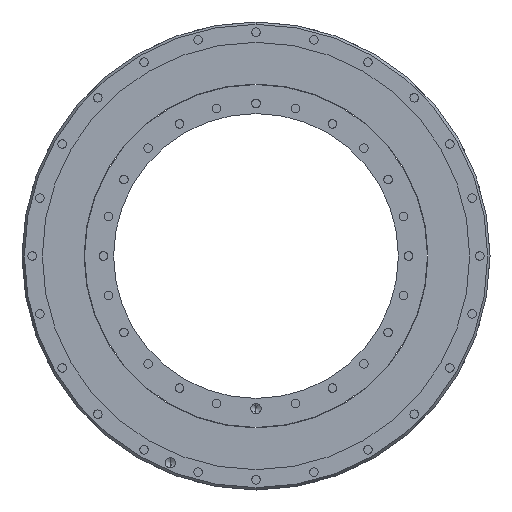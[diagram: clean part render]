
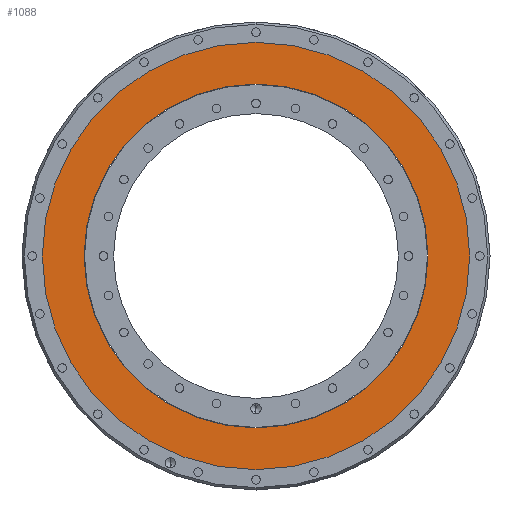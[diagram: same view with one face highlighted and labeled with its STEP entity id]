
A CAD part, front view. The second image highlights one B-rep face of the part: STEP entity #1088.
In plain terms, the highlighted planar face has unit normal (0, -1, 0).
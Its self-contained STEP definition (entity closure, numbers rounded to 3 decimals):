
#109 = DIRECTION ( 'NONE',  ( 0., -1., 0. ) ) ;
#121 = CARTESIAN_POINT ( 'NONE',  ( 0., 1., 0. ) ) ;
#137 = DIRECTION ( 'NONE',  ( 0., 0., -1. ) ) ;
#1088 = ADVANCED_FACE ( 'NONE', ( #1613, #3167 ), #3797, .T. ) ;
#1091 = CARTESIAN_POINT ( 'NONE',  ( 0., 1., -84.5 ) ) ;
#1461 = EDGE_LOOP ( 'NONE', ( #11218, #5923 ) ) ;
#1613 = FACE_OUTER_BOUND ( 'NONE', #1461, .T. ) ;
#1821 = CIRCLE ( 'NONE', #5876, 84.5 ) ;
#1967 = CIRCLE ( 'NONE', #9065, 105. ) ;
#2037 = CARTESIAN_POINT ( 'NONE',  ( 0., 1., 0. ) ) ;
#2378 = AXIS2_PLACEMENT_3D ( 'NONE', #9096, #3679, #7303 ) ;
#3167 = FACE_BOUND ( 'NONE', #6247, .T. ) ;
#3438 = CARTESIAN_POINT ( 'NONE',  ( 0., 1., -105. ) ) ;
#3526 = VERTEX_POINT ( 'NONE', #7017 ) ;
#3679 = DIRECTION ( 'NONE',  ( 0., -1., 0. ) ) ;
#3797 = PLANE ( 'NONE',  #2378 ) ;
#4518 = EDGE_CURVE ( 'NONE', #5607, #8681, #1821, .T. ) ;
#5434 = CIRCLE ( 'NONE', #7701, 105. ) ;
#5607 = VERTEX_POINT ( 'NONE', #6886 ) ;
#5876 = AXIS2_PLACEMENT_3D ( 'NONE', #121, #7227, #9881 ) ;
#5923 = ORIENTED_EDGE ( 'NONE', *, *, #6427, .T. ) ;
#6247 = EDGE_LOOP ( 'NONE', ( #8429, #6284 ) ) ;
#6284 = ORIENTED_EDGE ( 'NONE', *, *, #4518, .F. ) ;
#6394 = DIRECTION ( 'NONE',  ( 0., 0., -1. ) ) ;
#6427 = EDGE_CURVE ( 'NONE', #3526, #6783, #5434, .T. ) ;
#6536 = DIRECTION ( 'NONE',  ( 0., -1., 0. ) ) ;
#6783 = VERTEX_POINT ( 'NONE', #3438 ) ;
#6886 = CARTESIAN_POINT ( 'NONE',  ( 0., 1., 84.5 ) ) ;
#7017 = CARTESIAN_POINT ( 'NONE',  ( 0., 1., 105. ) ) ;
#7227 = DIRECTION ( 'NONE',  ( 0., -1., 0. ) ) ;
#7303 = DIRECTION ( 'NONE',  ( 0., 0., -1. ) ) ;
#7701 = AXIS2_PLACEMENT_3D ( 'NONE', #11090, #11252, #11207 ) ;
#8429 = ORIENTED_EDGE ( 'NONE', *, *, #9069, .F. ) ;
#8681 = VERTEX_POINT ( 'NONE', #1091 ) ;
#9065 = AXIS2_PLACEMENT_3D ( 'NONE', #10840, #109, #6394 ) ;
#9069 = EDGE_CURVE ( 'NONE', #8681, #5607, #9446, .T. ) ;
#9096 = CARTESIAN_POINT ( 'NONE',  ( 84.5, 1., 0. ) ) ;
#9446 = CIRCLE ( 'NONE', #9483, 84.5 ) ;
#9483 = AXIS2_PLACEMENT_3D ( 'NONE', #2037, #6536, #137 ) ;
#9881 = DIRECTION ( 'NONE',  ( 0., 0., -1. ) ) ;
#10840 = CARTESIAN_POINT ( 'NONE',  ( 0., 1., 0. ) ) ;
#11090 = CARTESIAN_POINT ( 'NONE',  ( 0., 1., 0. ) ) ;
#11207 = DIRECTION ( 'NONE',  ( 0., 0., -1. ) ) ;
#11218 = ORIENTED_EDGE ( 'NONE', *, *, #11437, .T. ) ;
#11252 = DIRECTION ( 'NONE',  ( 0., -1., 0. ) ) ;
#11437 = EDGE_CURVE ( 'NONE', #6783, #3526, #1967, .T. ) ;
